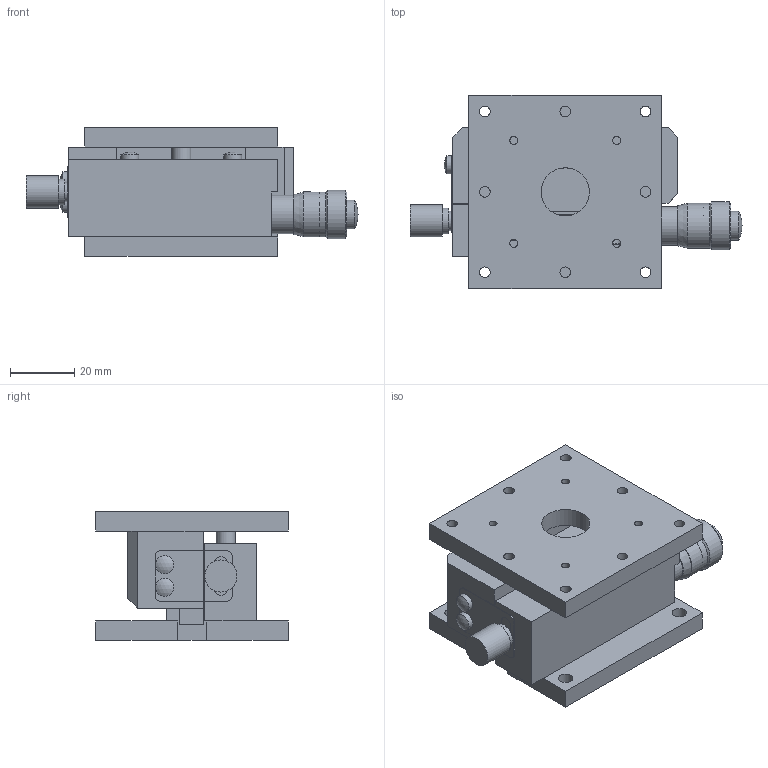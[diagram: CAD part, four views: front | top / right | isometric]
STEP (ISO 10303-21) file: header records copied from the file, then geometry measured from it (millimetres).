
FILE_DESCRIPTION( ( 'STEP AP214' ), '1' );
FILE_NAME( 'C:/Project/3D_B33-60A-配布-070508.stp', '2007-05-08T10:43:25', ( ' ' ), ( ' ' ), 'XStep 1.0', ' ', ' ' );
FILE_SCHEMA( ( 'automotive_design' ) );
Length unit declared in the file: millimetre
Products named in the file (4): 1; 2; 3; 4
Bounding box: 103.3 x 60 x 40 mm (x, y, z)
Volume: 100104.3 mm3; surface area: 35899.7 mm2
Topology: 4 solids, 4 shells, 162 faces, 398 edges, 256 vertices
Faces by surface type: plane 104, cylinder 46, sphere 6, cone 5, bspline 1
Full cylindrical faces by diameter (mm): 2.5 x4, 3.3 x8, 4 x1, 4.5 x4, 5 x2, 5.6 x4, 6 x2, 6.35 x1, 6.5 x1, 8 x2, 9 x2, 9.5 x1, 10 x3, 12 x1, 13.6 x1, 14 x1, 15 x2
Entity records: 5817 total; most frequent: CARTESIAN_POINT 770, DIRECTION 767, ORIENTED_EDGE 670, EDGE_CURVE 335, AXIS2_PLACEMENT_3D 267, EDGE_LOOP 256, VERTEX_POINT 242, LINE 233
